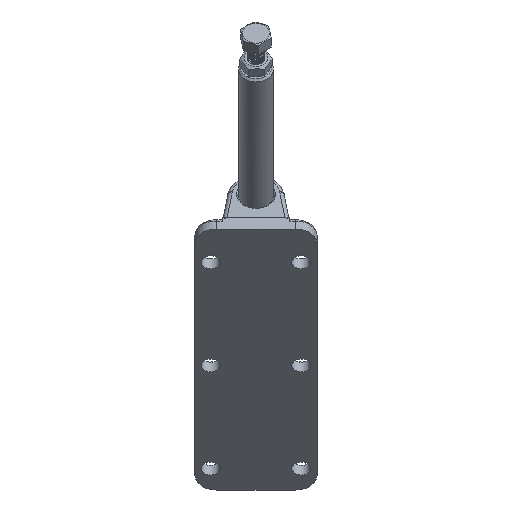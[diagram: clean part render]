
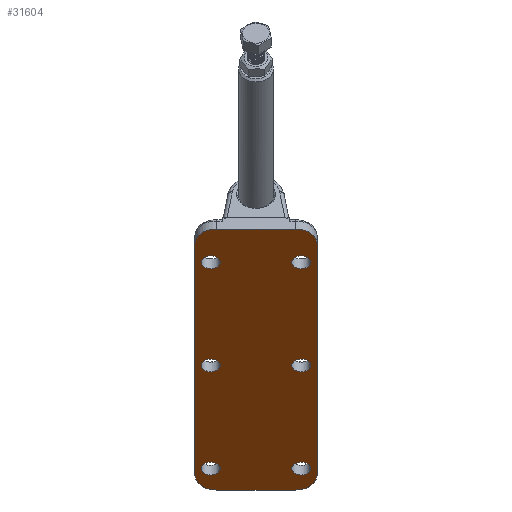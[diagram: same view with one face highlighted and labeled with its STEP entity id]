
A CAD part, left-side view. The second image highlights one B-rep face of the part: STEP entity #31604.
In plain terms, the highlighted planar face has unit normal (-0.676, 0, -0.737) as drawn and (0, 0, -1) by its records, which use the part's own axes.
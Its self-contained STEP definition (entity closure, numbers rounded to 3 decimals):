
#2324=FACE_BOUND('',#4219,.T.);
#2325=FACE_BOUND('',#4220,.T.);
#2326=FACE_BOUND('',#4221,.T.);
#2327=FACE_BOUND('',#4222,.T.);
#2328=FACE_BOUND('',#4223,.T.);
#2329=FACE_BOUND('',#4224,.T.);
#2411=FACE_OUTER_BOUND('',#4218,.T.);
#4218=EDGE_LOOP('',(#20919,#20920,#20921,#20922,#20923,#20924,#20925,#20926));
#4219=EDGE_LOOP('',(#20927));
#4220=EDGE_LOOP('',(#20928));
#4221=EDGE_LOOP('',(#20929,#20930));
#4222=EDGE_LOOP('',(#20931,#20932));
#4223=EDGE_LOOP('',(#20933));
#4224=EDGE_LOOP('',(#20934,#20935));
#6112=LINE('',#43074,#9160);
#6113=LINE('',#43078,#9161);
#6114=LINE('',#43082,#9162);
#6115=LINE('',#43085,#9163);
#9160=VECTOR('',#35749,157.);
#9161=VECTOR('',#35752,36.);
#9162=VECTOR('',#35755,157.);
#9163=VECTOR('',#35758,36.);
#12208=CIRCLE('',#33605,10.);
#12209=CIRCLE('',#33606,10.);
#12210=CIRCLE('',#33607,10.);
#12211=CIRCLE('',#33608,10.);
#12212=CIRCLE('',#33609,4.35);
#12213=CIRCLE('',#33610,4.35);
#12214=CIRCLE('',#33611,4.35);
#12215=CIRCLE('',#33612,4.35);
#12216=CIRCLE('',#33613,4.35);
#12217=CIRCLE('',#33614,4.35);
#12218=CIRCLE('',#33615,4.35);
#12219=CIRCLE('',#33616,4.35);
#12220=CIRCLE('',#33617,4.35);
#12815=VERTEX_POINT('',#43070);
#12816=VERTEX_POINT('',#43071);
#12817=VERTEX_POINT('',#43073);
#12818=VERTEX_POINT('',#43075);
#12819=VERTEX_POINT('',#43077);
#12820=VERTEX_POINT('',#43079);
#12821=VERTEX_POINT('',#43081);
#12822=VERTEX_POINT('',#43083);
#12823=VERTEX_POINT('',#43086);
#12824=VERTEX_POINT('',#43088);
#12825=VERTEX_POINT('',#43090);
#12826=VERTEX_POINT('',#43091);
#12827=VERTEX_POINT('',#43094);
#12828=VERTEX_POINT('',#43095);
#12829=VERTEX_POINT('',#43098);
#12830=VERTEX_POINT('',#43100);
#12831=VERTEX_POINT('',#43101);
#16001=EDGE_CURVE('',#12815,#12816,#12208,.T.);
#16002=EDGE_CURVE('',#12817,#12815,#6112,.T.);
#16003=EDGE_CURVE('',#12818,#12817,#12209,.T.);
#16004=EDGE_CURVE('',#12819,#12818,#6113,.T.);
#16005=EDGE_CURVE('',#12820,#12819,#12210,.T.);
#16006=EDGE_CURVE('',#12821,#12820,#6114,.T.);
#16007=EDGE_CURVE('',#12822,#12821,#12211,.T.);
#16008=EDGE_CURVE('',#12816,#12822,#6115,.T.);
#16009=EDGE_CURVE('',#12823,#12823,#12212,.T.);
#16010=EDGE_CURVE('',#12824,#12824,#12213,.T.);
#16011=EDGE_CURVE('',#12825,#12826,#12214,.T.);
#16012=EDGE_CURVE('',#12826,#12825,#12215,.T.);
#16013=EDGE_CURVE('',#12827,#12828,#12216,.T.);
#16014=EDGE_CURVE('',#12828,#12827,#12217,.T.);
#16015=EDGE_CURVE('',#12829,#12829,#12218,.T.);
#16016=EDGE_CURVE('',#12830,#12831,#12219,.T.);
#16017=EDGE_CURVE('',#12831,#12830,#12220,.T.);
#20919=ORIENTED_EDGE('',*,*,#16001,.F.);
#20920=ORIENTED_EDGE('',*,*,#16002,.F.);
#20921=ORIENTED_EDGE('',*,*,#16003,.F.);
#20922=ORIENTED_EDGE('',*,*,#16004,.F.);
#20923=ORIENTED_EDGE('',*,*,#16005,.F.);
#20924=ORIENTED_EDGE('',*,*,#16006,.F.);
#20925=ORIENTED_EDGE('',*,*,#16007,.F.);
#20926=ORIENTED_EDGE('',*,*,#16008,.F.);
#20927=ORIENTED_EDGE('',*,*,#16009,.F.);
#20928=ORIENTED_EDGE('',*,*,#16010,.F.);
#20929=ORIENTED_EDGE('',*,*,#16011,.F.);
#20930=ORIENTED_EDGE('',*,*,#16012,.F.);
#20931=ORIENTED_EDGE('',*,*,#16013,.F.);
#20932=ORIENTED_EDGE('',*,*,#16014,.F.);
#20933=ORIENTED_EDGE('',*,*,#16015,.F.);
#20934=ORIENTED_EDGE('',*,*,#16016,.F.);
#20935=ORIENTED_EDGE('',*,*,#16017,.F.);
#30755=PLANE('',#33604);
#31604=ADVANCED_FACE('',(#2411,#2324,#2325,#2326,#2327,#2328,#2329),#30755,
 .F.);
#33604=AXIS2_PLACEMENT_3D('',#43069,#35745,#35746);
#33605=AXIS2_PLACEMENT_3D('',#43072,#35747,#35748);
#33606=AXIS2_PLACEMENT_3D('',#43076,#35750,#35751);
#33607=AXIS2_PLACEMENT_3D('',#43080,#35753,#35754);
#33608=AXIS2_PLACEMENT_3D('',#43084,#35756,#35757);
#33609=AXIS2_PLACEMENT_3D('',#43087,#35759,#35760);
#33610=AXIS2_PLACEMENT_3D('',#43089,#35761,#35762);
#33611=AXIS2_PLACEMENT_3D('',#43092,#35763,#35764);
#33612=AXIS2_PLACEMENT_3D('',#43093,#35765,#35766);
#33613=AXIS2_PLACEMENT_3D('',#43096,#35767,#35768);
#33614=AXIS2_PLACEMENT_3D('',#43097,#35769,#35770);
#33615=AXIS2_PLACEMENT_3D('',#43099,#35771,#35772);
#33616=AXIS2_PLACEMENT_3D('',#43102,#35773,#35774);
#33617=AXIS2_PLACEMENT_3D('',#43103,#35775,#35776);
#35745=DIRECTION('center_axis',(0.,0.,1.));
#35746=DIRECTION('ref_axis',(1.,0.,0.));
#35747=DIRECTION('center_axis',(0.,0.,1.));
#35748=DIRECTION('ref_axis',(0.,1.,0.));
#35749=DIRECTION('',(-1.,0.,0.));
#35750=DIRECTION('center_axis',(0.,0.,1.));
#35751=DIRECTION('ref_axis',(1.,0.,0.));
#35752=DIRECTION('',(0.,1.,0.));
#35753=DIRECTION('center_axis',(0.,0.,1.));
#35754=DIRECTION('ref_axis',(0.,-1.,0.));
#35755=DIRECTION('',(1.,0.,0.));
#35756=DIRECTION('center_axis',(0.,0.,1.));
#35757=DIRECTION('ref_axis',(-1.,0.,0.));
#35758=DIRECTION('',(0.,-1.,0.));
#35759=DIRECTION('center_axis',(0.,0.,-1.));
#35760=DIRECTION('ref_axis',(1.,0.,0.));
#35761=DIRECTION('center_axis',(0.,0.,-1.));
#35762=DIRECTION('ref_axis',(1.,0.,0.));
#35763=DIRECTION('center_axis',(0.,0.,-1.));
#35764=DIRECTION('ref_axis',(1.,0.,0.));
#35765=DIRECTION('center_axis',(0.,0.,-1.));
#35766=DIRECTION('ref_axis',(1.,0.,0.));
#35767=DIRECTION('center_axis',(0.,0.,-1.));
#35768=DIRECTION('ref_axis',(1.,0.,0.));
#35769=DIRECTION('center_axis',(0.,0.,-1.));
#35770=DIRECTION('ref_axis',(1.,0.,0.));
#35771=DIRECTION('center_axis',(0.,0.,-1.));
#35772=DIRECTION('ref_axis',(1.,0.,0.));
#35773=DIRECTION('center_axis',(0.,0.,-1.));
#35774=DIRECTION('ref_axis',(1.,0.,0.));
#35775=DIRECTION('center_axis',(0.,0.,-1.));
#35776=DIRECTION('ref_axis',(1.,0.,0.));
#43069=CARTESIAN_POINT('Origin',(0.,0.,0.));
#43070=CARTESIAN_POINT('',(-78.5,28.,0.));
#43071=CARTESIAN_POINT('',(-88.5,18.,0.));
#43072=CARTESIAN_POINT('Origin',(-78.5,18.,0.));
#43073=CARTESIAN_POINT('',(78.5,28.,0.));
#43074=CARTESIAN_POINT('',(78.5,28.,0.));
#43075=CARTESIAN_POINT('',(88.5,18.,0.));
#43076=CARTESIAN_POINT('Origin',(78.5,18.,0.));
#43077=CARTESIAN_POINT('',(88.5,-18.,0.));
#43078=CARTESIAN_POINT('',(88.5,-18.,0.));
#43079=CARTESIAN_POINT('',(78.5,-28.,0.));
#43080=CARTESIAN_POINT('Origin',(78.5,-18.,0.));
#43081=CARTESIAN_POINT('',(-78.5,-28.,0.));
#43082=CARTESIAN_POINT('',(-78.5,-28.,0.));
#43083=CARTESIAN_POINT('',(-88.5,-18.,0.));
#43084=CARTESIAN_POINT('Origin',(-78.5,-18.,0.));
#43085=CARTESIAN_POINT('',(-88.5,18.,0.));
#43086=CARTESIAN_POINT('',(69.65,20.75,0.));
#43087=CARTESIAN_POINT('Origin',(74.,20.75,0.));
#43088=CARTESIAN_POINT('',(69.65,-20.75,0.));
#43089=CARTESIAN_POINT('Origin',(74.,-20.75,0.));
#43090=CARTESIAN_POINT('',(8.35,-20.75,0.));
#43091=CARTESIAN_POINT('',(-0.35,-20.75,0.));
#43092=CARTESIAN_POINT('Origin',(4.,-20.75,0.));
#43093=CARTESIAN_POINT('Origin',(4.,-20.75,0.));
#43094=CARTESIAN_POINT('',(8.35,20.75,0.));
#43095=CARTESIAN_POINT('',(-0.35,20.75,0.));
#43096=CARTESIAN_POINT('Origin',(4.,20.75,0.));
#43097=CARTESIAN_POINT('Origin',(4.,20.75,0.));
#43098=CARTESIAN_POINT('',(-70.35,-20.75,0.));
#43099=CARTESIAN_POINT('Origin',(-66.,-20.75,0.));
#43100=CARTESIAN_POINT('',(-61.65,20.75,0.));
#43101=CARTESIAN_POINT('',(-70.35,20.75,0.));
#43102=CARTESIAN_POINT('Origin',(-66.,20.75,0.));
#43103=CARTESIAN_POINT('Origin',(-66.,20.75,0.));
